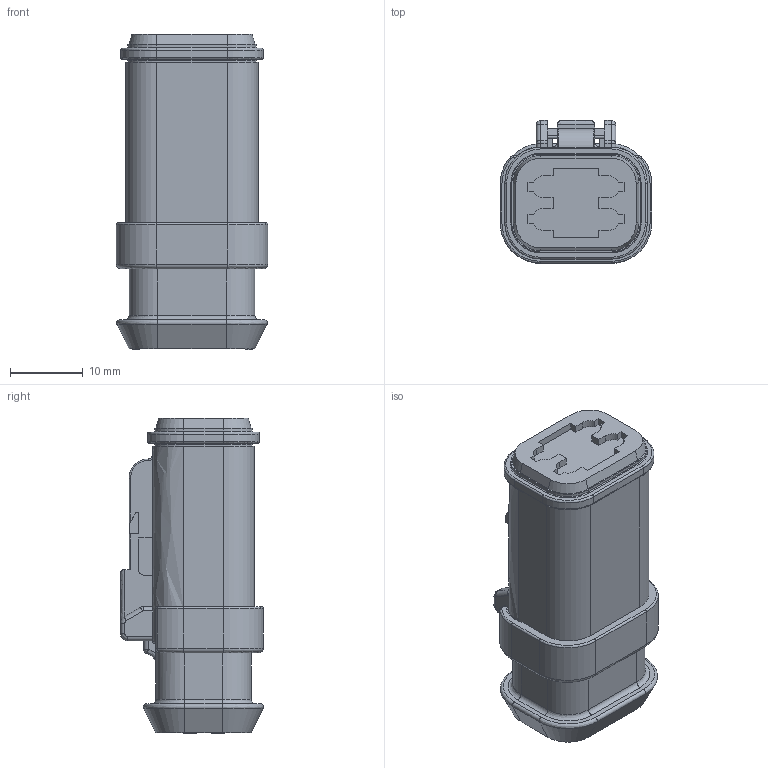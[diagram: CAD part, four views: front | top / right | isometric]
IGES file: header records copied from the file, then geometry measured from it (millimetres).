
Start section:  PTC IGES file: c-dt06-4s-ce13-99-3d.igs
Global section: file name: c-dt06-4s-ce13-99-3d.igs; native system: Creo Parametric by Parametric Technology Corporation; preprocessor: 2014090; author: workeradm; organization: Unknown; units: millimetre
Bounding box: 20.83 x 19.63 x 43.31 mm (x, y, z)
Surface area: 4677.3 mm2 (no closed solid volume)
Topology: 0 solids, 0 shells, 510 faces, 2626 edges, 2626 vertices
Faces by surface type: bspline 269, revolution 241
